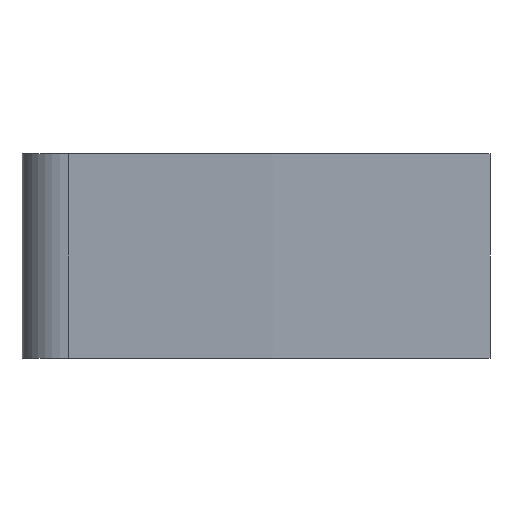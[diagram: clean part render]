
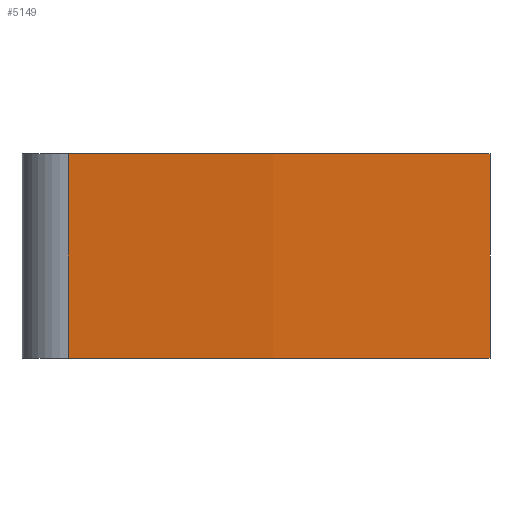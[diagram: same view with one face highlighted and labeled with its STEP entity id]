
A CAD part, front view. The second image highlights one B-rep face of the part: STEP entity #5149.
In plain terms, the highlighted free-form (B-spline) face has degree [5, 1] with [15, 2] control points.
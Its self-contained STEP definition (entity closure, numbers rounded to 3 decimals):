
#15=(
BOUNDED_SURFACE()
B_SPLINE_SURFACE(5,1,((#8120,#8121),(#8122,#8123),(#8124,#8125),(#8126,
#8127),(#8128,#8129),(#8130,#8131),(#8132,#8133),(#8134,#8135),(#8136,#8137),
(#8138,#8139),(#8140,#8141),(#8142,#8143),(#8144,#8145),(#8146,#8147),(#8148,
#8149)),.UNSPECIFIED.,.F.,.F.,.F.)
B_SPLINE_SURFACE_WITH_KNOTS((6,1,1,1,1,1,1,1,1,1,6),(2,2),(0.,0.1,0.2,0.3,
0.4,0.5,0.6,0.7,0.8,0.9,1.),(0.,4.),.UNSPECIFIED.)
GEOMETRIC_REPRESENTATION_ITEM()
RATIONAL_B_SPLINE_SURFACE(((1.,1.),(1.,1.),(1.,1.),(1.,1.),(1.,1.),(1.,
1.),(1.,1.),(1.,1.),(1.,1.),(1.,1.),(1.,1.),(1.,1.),(1.,1.),(1.,1.),(1.,
1.)))
REPRESENTATION_ITEM('')
SURFACE()
);
#18=(
BOUNDED_CURVE()
B_SPLINE_CURVE(5,(#7633,#7634,#7635,#7636,#7637,#7638,#7639,#7640,#7641,
#7642,#7643,#7644,#7645,#7646,#7647),.UNSPECIFIED.,.F.,.F.)
B_SPLINE_CURVE_WITH_KNOTS((6,1,1,1,1,1,1,1,1,1,6),(0.,0.1,0.2,0.3,0.4,0.5,
0.6,0.7,0.8,0.9,1.),.UNSPECIFIED.)
CURVE()
GEOMETRIC_REPRESENTATION_ITEM()
RATIONAL_B_SPLINE_CURVE((1.,1.,1.,1.,1.,1.,1.,1.,1.,1.,1.,1.,1.,1.,1.))
REPRESENTATION_ITEM('')
);
#19=(
BOUNDED_CURVE()
B_SPLINE_CURVE(5,(#8152,#8153,#8154,#8155,#8156,#8157,#8158,#8159,#8160,
#8161,#8162,#8163,#8164,#8165,#8166),.UNSPECIFIED.,.F.,.F.)
B_SPLINE_CURVE_WITH_KNOTS((6,1,1,1,1,1,1,1,1,1,6),(0.,0.1,0.2,0.3,0.4,0.5,
0.6,0.7,0.8,0.9,1.),.UNSPECIFIED.)
CURVE()
GEOMETRIC_REPRESENTATION_ITEM()
RATIONAL_B_SPLINE_CURVE((1.,1.,1.,1.,1.,1.,1.,1.,1.,1.,1.,1.,1.,1.,1.))
REPRESENTATION_ITEM('')
);
#270=FACE_OUTER_BOUND('',#520,.T.);
#520=EDGE_LOOP('',(#4642,#4643,#4644,#4645));
#767=LINE('',#7145,#1493);
#1246=LINE('',#8151,#1972);
#1493=VECTOR('',#5677,10.);
#1972=VECTOR('',#6638,10.);
#2220=VERTEX_POINT('',#7143);
#2221=VERTEX_POINT('',#7144);
#2343=VERTEX_POINT('',#7629);
#2462=VERTEX_POINT('',#8150);
#2709=EDGE_CURVE('',#2220,#2221,#767,.T.);
#2954=EDGE_CURVE('',#2221,#2343,#18,.T.);
#3191=EDGE_CURVE('',#2462,#2343,#1246,.T.);
#3192=EDGE_CURVE('',#2220,#2462,#19,.T.);
#4642=ORIENTED_EDGE('',*,*,#3191,.T.);
#4643=ORIENTED_EDGE('',*,*,#2954,.F.);
#4644=ORIENTED_EDGE('',*,*,#2709,.F.);
#4645=ORIENTED_EDGE('',*,*,#3192,.T.);
#5149=ADVANCED_FACE('',(#270),#15,.T.);
#5677=DIRECTION('',(0.,0.,1.));
#6638=DIRECTION('',(0.,0.,1.));
#7143=CARTESIAN_POINT('',(-82.664,6.42,0.));
#7144=CARTESIAN_POINT('',(-82.664,6.42,40.));
#7145=CARTESIAN_POINT('',(-82.664,6.42,0.));
#7629=CARTESIAN_POINT('',(0.,-1.,40.));
#7633=CARTESIAN_POINT('Ctrl Pts',(-82.664,6.42,40.));
#7634=CARTESIAN_POINT('Ctrl Pts',(-81.096,6.186,40.));
#7635=CARTESIAN_POINT('Ctrl Pts',(-77.952,5.725,40.));
#7636=CARTESIAN_POINT('Ctrl Pts',(-73.214,5.057,40.));
#7637=CARTESIAN_POINT('Ctrl Pts',(-66.85,4.212,40.));
#7638=CARTESIAN_POINT('Ctrl Pts',(-58.814,3.238,40.));
#7639=CARTESIAN_POINT('Ctrl Pts',(-50.69,2.354,40.));
#7640=CARTESIAN_POINT('Ctrl Pts',(-42.47,1.565,40.));
#7641=CARTESIAN_POINT('Ctrl Pts',(-34.152,0.874,40.));
#7642=CARTESIAN_POINT('Ctrl Pts',(-25.741,0.278,40.));
#7643=CARTESIAN_POINT('Ctrl Pts',(-17.244,-0.231,
40.));
#7644=CARTESIAN_POINT('Ctrl Pts',(-10.383,-0.576,40.));
#7645=CARTESIAN_POINT('Ctrl Pts',(-5.204,-0.801,
40.));
#7646=CARTESIAN_POINT('Ctrl Pts',(-1.737,-0.936,
40.));
#7647=CARTESIAN_POINT('Ctrl Pts',(0.,-1.,40.));
#8120=CARTESIAN_POINT('Ctrl Pts',(-82.664,6.42,0.));
#8121=CARTESIAN_POINT('Ctrl Pts',(-82.664,6.42,40.));
#8122=CARTESIAN_POINT('Ctrl Pts',(-81.096,6.186,0.));
#8123=CARTESIAN_POINT('Ctrl Pts',(-81.096,6.186,40.));
#8124=CARTESIAN_POINT('Ctrl Pts',(-77.952,5.725,0.));
#8125=CARTESIAN_POINT('Ctrl Pts',(-77.952,5.725,40.));
#8126=CARTESIAN_POINT('Ctrl Pts',(-73.214,5.057,0.));
#8127=CARTESIAN_POINT('Ctrl Pts',(-73.214,5.057,40.));
#8128=CARTESIAN_POINT('Ctrl Pts',(-66.85,4.212,0.));
#8129=CARTESIAN_POINT('Ctrl Pts',(-66.85,4.212,40.));
#8130=CARTESIAN_POINT('Ctrl Pts',(-58.814,3.238,0.));
#8131=CARTESIAN_POINT('Ctrl Pts',(-58.814,3.238,40.));
#8132=CARTESIAN_POINT('Ctrl Pts',(-50.69,2.354,0.));
#8133=CARTESIAN_POINT('Ctrl Pts',(-50.69,2.354,40.));
#8134=CARTESIAN_POINT('Ctrl Pts',(-42.47,1.565,0.));
#8135=CARTESIAN_POINT('Ctrl Pts',(-42.47,1.565,40.));
#8136=CARTESIAN_POINT('Ctrl Pts',(-34.152,0.874,0.));
#8137=CARTESIAN_POINT('Ctrl Pts',(-34.152,0.874,40.));
#8138=CARTESIAN_POINT('Ctrl Pts',(-25.741,0.278,0.));
#8139=CARTESIAN_POINT('Ctrl Pts',(-25.741,0.278,40.));
#8140=CARTESIAN_POINT('Ctrl Pts',(-17.244,-0.231,
0.));
#8141=CARTESIAN_POINT('Ctrl Pts',(-17.244,-0.231,
40.));
#8142=CARTESIAN_POINT('Ctrl Pts',(-10.383,-0.576,0.));
#8143=CARTESIAN_POINT('Ctrl Pts',(-10.383,-0.576,40.));
#8144=CARTESIAN_POINT('Ctrl Pts',(-5.204,-0.801,
0.));
#8145=CARTESIAN_POINT('Ctrl Pts',(-5.204,-0.801,
40.));
#8146=CARTESIAN_POINT('Ctrl Pts',(-1.737,-0.936,
0.));
#8147=CARTESIAN_POINT('Ctrl Pts',(-1.737,-0.936,
40.));
#8148=CARTESIAN_POINT('Ctrl Pts',(0.,-1.,0.));
#8149=CARTESIAN_POINT('Ctrl Pts',(0.,-1.,40.));
#8150=CARTESIAN_POINT('',(0.,-1.,0.));
#8151=CARTESIAN_POINT('',(0.,-1.,0.));
#8152=CARTESIAN_POINT('Ctrl Pts',(-82.664,6.42,0.));
#8153=CARTESIAN_POINT('Ctrl Pts',(-81.096,6.186,0.));
#8154=CARTESIAN_POINT('Ctrl Pts',(-77.952,5.725,0.));
#8155=CARTESIAN_POINT('Ctrl Pts',(-73.214,5.057,0.));
#8156=CARTESIAN_POINT('Ctrl Pts',(-66.85,4.212,0.));
#8157=CARTESIAN_POINT('Ctrl Pts',(-58.814,3.238,0.));
#8158=CARTESIAN_POINT('Ctrl Pts',(-50.69,2.354,0.));
#8159=CARTESIAN_POINT('Ctrl Pts',(-42.47,1.565,0.));
#8160=CARTESIAN_POINT('Ctrl Pts',(-34.152,0.874,0.));
#8161=CARTESIAN_POINT('Ctrl Pts',(-25.741,0.278,0.));
#8162=CARTESIAN_POINT('Ctrl Pts',(-17.244,-0.231,
0.));
#8163=CARTESIAN_POINT('Ctrl Pts',(-10.383,-0.576,0.));
#8164=CARTESIAN_POINT('Ctrl Pts',(-5.204,-0.801,
0.));
#8165=CARTESIAN_POINT('Ctrl Pts',(-1.737,-0.936,
0.));
#8166=CARTESIAN_POINT('Ctrl Pts',(0.,-1.,0.));
